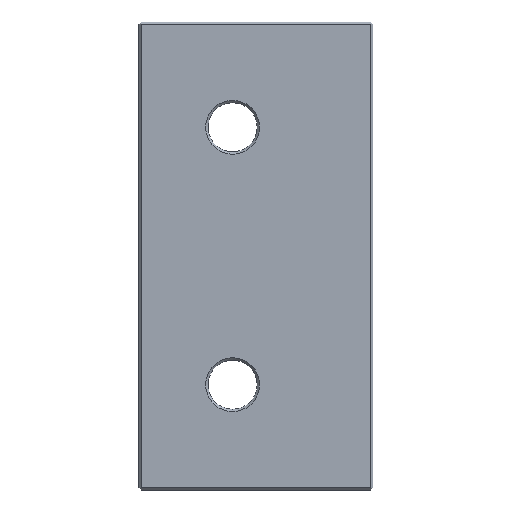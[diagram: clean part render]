
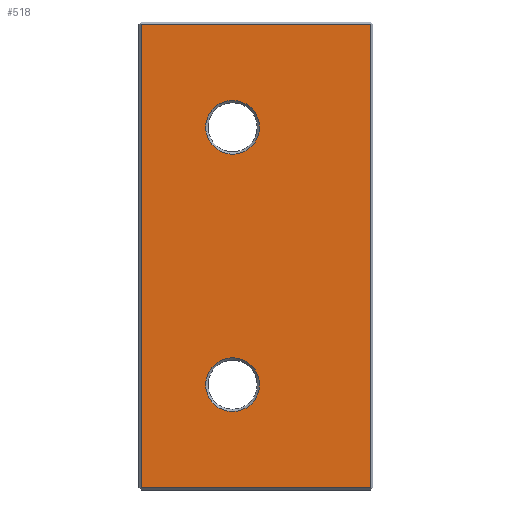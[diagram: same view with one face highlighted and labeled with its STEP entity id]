
A CAD part, front view. The second image highlights one B-rep face of the part: STEP entity #518.
In plain terms, the highlighted planar face has unit normal (0, -1, 0).
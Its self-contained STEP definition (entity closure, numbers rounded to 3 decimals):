
#16=FACE_BOUND('',#70,.T.);
#17=FACE_BOUND('',#71,.T.);
#20=CIRCLE('',#571,11.5);
#22=CIRCLE('',#574,11.5);
#36=FACE_OUTER_BOUND('',#69,.T.);
#69=EDGE_LOOP('',(#329,#330,#331,#332));
#70=EDGE_LOOP('',(#333));
#71=EDGE_LOOP('',(#334));
#109=LINE('',#776,#166);
#110=LINE('',#778,#167);
#111=LINE('',#780,#168);
#112=LINE('',#781,#169);
#166=VECTOR('',#629,10.);
#167=VECTOR('',#630,10.);
#168=VECTOR('',#631,10.);
#169=VECTOR('',#632,10.);
#222=VERTEX_POINT('',#768);
#224=VERTEX_POINT('',#774);
#225=VERTEX_POINT('',#775);
#226=VERTEX_POINT('',#777);
#227=VERTEX_POINT('',#779);
#228=VERTEX_POINT('',#782);
#258=EDGE_CURVE('',#222,#222,#20,.T.);
#261=EDGE_CURVE('',#224,#225,#109,.T.);
#262=EDGE_CURVE('',#226,#224,#110,.T.);
#263=EDGE_CURVE('',#227,#226,#111,.T.);
#264=EDGE_CURVE('',#225,#227,#112,.T.);
#265=EDGE_CURVE('',#228,#228,#22,.T.);
#329=ORIENTED_EDGE('',*,*,#261,.F.);
#330=ORIENTED_EDGE('',*,*,#262,.F.);
#331=ORIENTED_EDGE('',*,*,#263,.F.);
#332=ORIENTED_EDGE('',*,*,#264,.F.);
#333=ORIENTED_EDGE('',*,*,#265,.F.);
#334=ORIENTED_EDGE('',*,*,#258,.F.);
#456=PLANE('',#573);
#518=ADVANCED_FACE('',(#36,#16,#17),#456,.F.);
#571=AXIS2_PLACEMENT_3D('',#769,#622,#623);
#573=AXIS2_PLACEMENT_3D('',#773,#627,#628);
#574=AXIS2_PLACEMENT_3D('',#783,#633,#634);
#622=DIRECTION('center_axis',(0.,-1.,0.));
#623=DIRECTION('ref_axis',(1.,0.,0.));
#627=DIRECTION('center_axis',(0.,1.,0.));
#628=DIRECTION('ref_axis',(0.,0.,1.));
#629=DIRECTION('',(0.,0.,-1.));
#630=DIRECTION('',(1.,0.,0.));
#631=DIRECTION('',(0.,0.,1.));
#632=DIRECTION('',(-1.,0.,0.));
#633=DIRECTION('center_axis',(0.,-1.,0.));
#634=DIRECTION('ref_axis',(1.,0.,0.));
#768=CARTESIAN_POINT('',(28.5,0.,45.));
#769=CARTESIAN_POINT('Origin',(40.,0.,45.));
#773=CARTESIAN_POINT('Origin',(50.,0.,100.));
#774=CARTESIAN_POINT('',(99.,0.,199.));
#775=CARTESIAN_POINT('',(99.,0.,1.));
#776=CARTESIAN_POINT('',(99.,0.,150.));
#777=CARTESIAN_POINT('',(1.,0.,199.));
#778=CARTESIAN_POINT('',(25.,0.,199.));
#779=CARTESIAN_POINT('',(1.,0.,1.));
#780=CARTESIAN_POINT('',(1.,0.,50.));
#781=CARTESIAN_POINT('',(75.,0.,1.));
#782=CARTESIAN_POINT('',(28.5,0.,155.));
#783=CARTESIAN_POINT('Origin',(40.,0.,155.));
